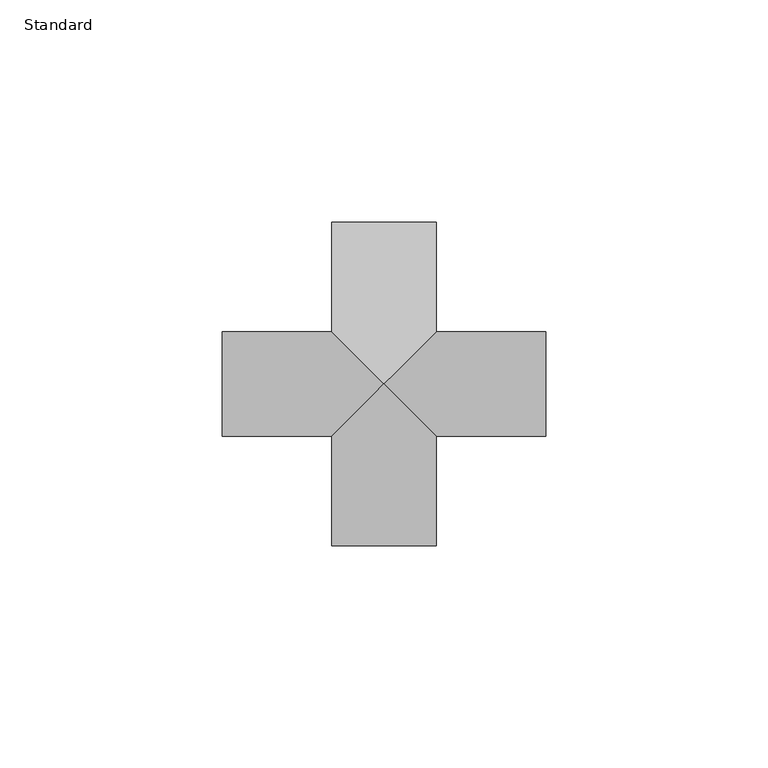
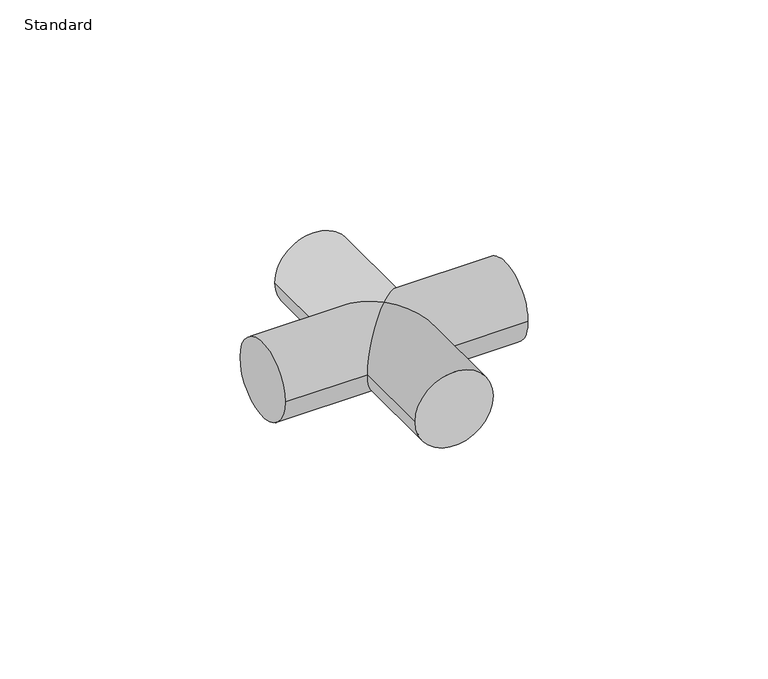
"""IFC4 building model written with IfcOpenShell, lengths in millimetres: pipe fitting geometry, Cross_Lubrizol_CPVC_FlowGuard_MX : Standard."""

from ifc_helpers import new_model, si_unit, frame, origin, place, context, project, spatial, circle_curve, ellipse_curve, source, transform, mapped, element, save
from ifc_brep_helpers import plane_surface, cylinder_surface, advanced_brep


def standard_33ca7a89(model_context):
    return source(origin(), model_context, "Body", "AdvancedBrep", [
        advanced_brep(
        [(-11.7089844, -36.4159375, 0.0), (11.7089844, -36.4159375, 0.0), (11.7089844, -11.7089844, 0.0), (0.0, 0.0, 11.7089844), (-11.7089844, -11.7089844, 0.0), (0.0, 0.0, -11.7089844), (11.7089844, 36.4159375, 0.0), (-11.7089844, 36.4159375, 0.0), (-11.7089844, 11.7089844, 0.0), (11.7089844, 11.7089844, 0.0), (-36.4159375, -11.7089844, 0.0), (-36.4159375, 11.7089844, 0.0), (36.4159375, -11.7089844, 0.0), (36.4159375, 11.7089844, 0.0)],
        [
            (0, 1, circle_curve(frame((0.0, -36.4159375, 0.0), z_axis=(0.0, -1.0, 0.0), x_axis=(1.0, 0.0, 0.0)), 11.7089844)),
            (1, 0, circle_curve(frame((0.0, -36.4159375, 0.0), z_axis=(0.0, -1.0, 0.0), x_axis=(1.0, 0.0, 0.0)), 11.7089844)),
            (1, 2),
            (2, 3, ellipse_curve(frame((0.0, 0.0, 0.0), z_axis=(-0.7071067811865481, -0.7071067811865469, 0.0), x_axis=(-0.7071067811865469, 0.7071067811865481, 0.0)), 16.5590045, 11.7089844)),
            (3, 4, ellipse_curve(frame((0.0, 0.0, 0.0), z_axis=(0.707106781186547, -0.7071067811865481, 0.0), x_axis=(0.7071067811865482, 0.7071067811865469, 0.0)), 16.5590045, 11.7089844)),
            (4, 0),
            (4, 5, ellipse_curve(frame((0.0, 0.0, 0.0), z_axis=(0.707106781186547, -0.7071067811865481, 0.0), x_axis=(0.7071067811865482, 0.7071067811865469, 0.0)), 16.5590045, 11.7089844)),
            (5, 2, ellipse_curve(frame((0.0, 0.0, 0.0), z_axis=(-0.7071067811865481, -0.7071067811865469, 0.0), x_axis=(-0.7071067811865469, 0.7071067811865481, 0.0)), 16.5590045, 11.7089844)),
            (6, 7, circle_curve(frame((0.0, 36.4159375, 0.0), z_axis=(0.0, 1.0, 0.0), x_axis=(-1.0, 0.0, 0.0)), 11.7089844)),
            (7, 6, circle_curve(frame((0.0, 36.4159375, 0.0), z_axis=(0.0, 1.0, 0.0), x_axis=(-1.0, 0.0, 0.0)), 11.7089844)),
            (7, 8),
            (8, 3, ellipse_curve(frame((0.0, 0.0, 0.0), z_axis=(0.7071067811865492, 0.7071067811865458, 0.0), x_axis=(0.7071067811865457, -0.7071067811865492, 0.0)), 16.5590045, 11.7089844)),
            (3, 9, ellipse_curve(frame((0.0, 0.0, 0.0), z_axis=(-0.7071067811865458, 0.7071067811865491, 0.0), x_axis=(-0.7071067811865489, -0.707106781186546, 0.0)), 16.5590045, 11.7089844)),
            (9, 6),
            (9, 5, ellipse_curve(frame((0.0, 0.0, 0.0), z_axis=(-0.7071067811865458, 0.7071067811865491, 0.0), x_axis=(-0.7071067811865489, -0.707106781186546, 0.0)), 16.5590045, 11.7089844)),
            (5, 8, ellipse_curve(frame((0.0, 0.0, 0.0), z_axis=(0.7071067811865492, 0.7071067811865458, 0.0), x_axis=(0.7071067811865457, -0.7071067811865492, 0.0)), 16.5590045, 11.7089844)),
            (10, 11, circle_curve(frame((-36.4159375, 0.0, 0.0), z_axis=(-1.0, 0.0, 0.0), x_axis=(0.0, 1.0, 0.0)), 11.7089844)),
            (11, 10, circle_curve(frame((-36.4159375, 0.0, 0.0), z_axis=(-1.0, 0.0, 0.0), x_axis=(0.0, 1.0, 0.0)), 11.7089844)),
            (12, 13, circle_curve(frame((36.4159375, 0.0, 0.0), z_axis=(1.0, 0.0, 0.0), x_axis=(0.0, 1.0, 0.0)), 11.7089844)),
            (13, 12, circle_curve(frame((36.4159375, 0.0, 0.0), z_axis=(1.0, 0.0, 0.0), x_axis=(0.0, 1.0, 0.0)), 11.7089844)),
            (10, 4),
            (8, 11),
            (13, 9),
            (2, 12),
        ],
        [
            plane_surface(frame((0.0, -36.4159375, 0.0), z_axis=(0.0, -1.0, 0.0), x_axis=(0.0, 0.0, 1.0))),
            cylinder_surface(frame((0.0, 0.0, 0.0), z_axis=(0.0, 1.0, 0.0), x_axis=(1.0, 0.0, 0.0)), 11.7089844),
            plane_surface(frame((0.0, 36.4159375, 0.0), z_axis=(0.0, 1.0, 0.0), x_axis=(0.0, 0.0, 1.0))),
            cylinder_surface(frame((0.0, 0.0, 0.0), z_axis=(0.0, -1.0, 0.0), x_axis=(-1.0, 0.0, 0.0)), 11.7089844),
            plane_surface(frame((-36.4159375, 0.0, 0.0), z_axis=(-1.0, 0.0, 0.0), x_axis=(0.0, 0.0, 1.0))),
            plane_surface(frame((36.4159375, 0.0, 0.0), z_axis=(1.0, 0.0, 0.0), x_axis=(0.0, 0.0, 1.0))),
            cylinder_surface(frame((-36.4159375, 0.0, 0.0), z_axis=(-1.0, 0.0, 0.0), x_axis=(0.0, 1.0, 0.0)), 11.7089844),
        ],
        [
            (0, [[1, 2]]),
            (1, [[-2, 3, 4, 5, 6]]),
            (1, [[-1, -6, 7, 8, -3]]),
            (2, [[9, 10]]),
            (3, [[-10, 11, 12, 13, 14]]),
            (3, [[-9, -14, 15, 16, -11]]),
            (4, [[17, 18]]),
            (5, [[19, 20]]),
            (6, [[-17, 21, -5, -12, 22]]),
            (6, [[-20, 23, -13, -4, 24]]),
            (6, [[-18, -22, -16, -7, -21]]),
            (6, [[-19, -24, -8, -15, -23]]),
        ],
    ),
    ])


if __name__ == "__main__":
    model = new_model("IFC4")
    model_context = context("Model", 3, world=origin())
    ifc_project = project(units=[si_unit("LENGTHUNIT", "METRE", prefix="MILLI")], contexts=[model_context])
    site = spatial("IfcSite", under=ifc_project)
    building = spatial("IfcBuilding", under=site)
    placement = place(None, origin())
    standard_shape = standard_33ca7a89(model_context)
    element("IfcPipeFitting", 1, ObjectType="Cross_Lubrizol_CPVC_FlowGuard_MX : Standard", at=placement, inside=building, context=model_context, shape_type="MappedRepresentation", body=[
        mapped(standard_shape, transform((0.0, 0.0, 0.0), x_axis=(1.0, 0.0, 0.0), y_axis=(0.0, 1.0, 0.0), z_axis=(0.0, 0.0, 1.0))),
    ])
    save(model, "model.ifc")
